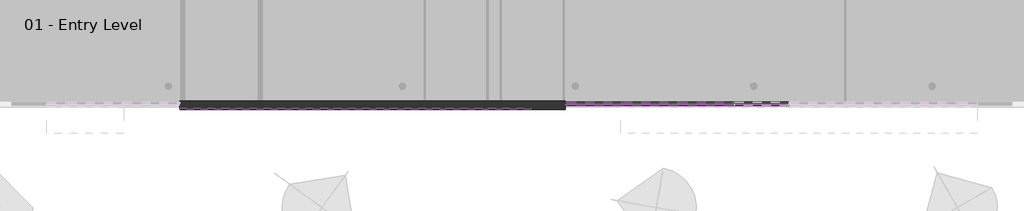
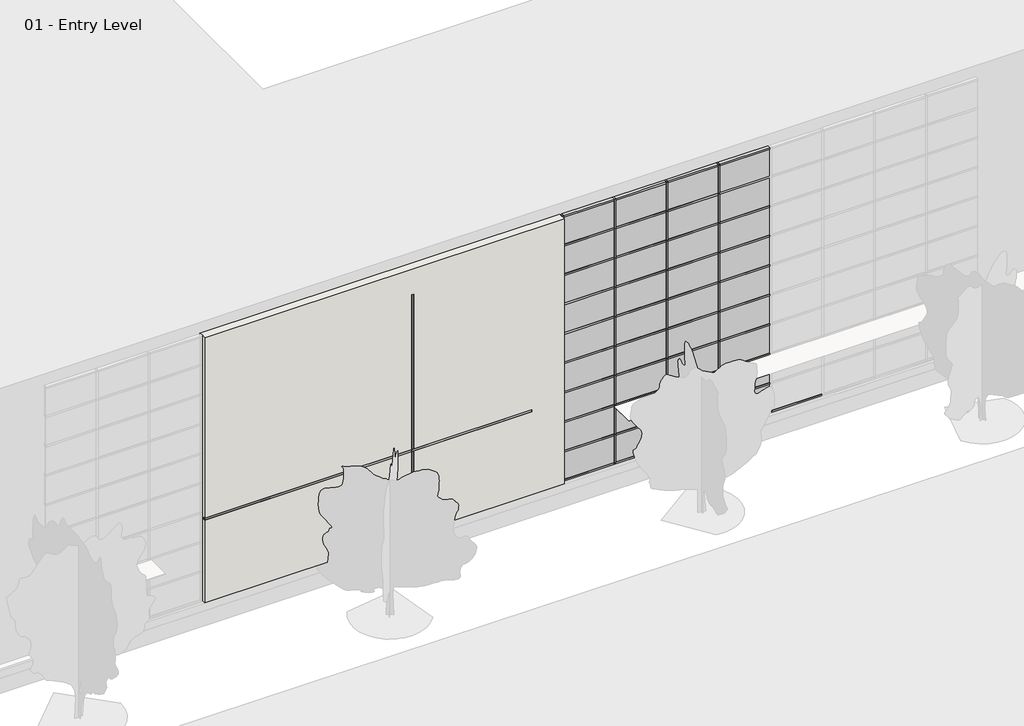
# One storey, part 2 of 35: 85 members, 36 plates, 2 proxies, 1 wall.
"""IFC4 building model written with IfcOpenShell, lengths in millimetres."""

from ifc_helpers import new_model, si_unit, frame, origin, origin_with_axes, place, context, project, spatial, polyline, outline, extrude, faceted_brep, transform, mapped, element, save
from components import member_2b49869a, member_75074519, member_391b434c, member_9e90ae50, system_panel_glazed_1b9d6098, system_panel_glazed_70da479d, system_panel_solid_b376696c, system_panel_solid_77e8b053

model = new_model("IFC4")

# Units and contexts
model_context = context("Model", 3, world=origin())
ifc_project = project(units=[si_unit("LENGTHUNIT", "METRE", prefix="MILLI")], contexts=[model_context])

# Site, building, storey
site = spatial("IfcSite", under=ifc_project)
building = spatial("IfcBuilding", under=site)
storey = spatial("IfcBuildingStorey", under=building, Name="01 - Entry Level", Elevation=0.0)

# Proxies
placement = place(None, origin())
element("IfcBuildingElementProxy", 1, Name="Reveal", ObjectType="Reveal", at=placement, inside=storey, context=model_context, shape_type="SweptSolid", body=[
    extrude(outline(polyline([(16536.3207476, -203.275), (16536.3207476, -254.075), (16460.1207476, -254.075), (16460.1207476, -203.275), (16536.3207476, -203.275)])), origin_with_axes(), (0.0, 0.0, 1.0), 9906.0),
])
element("IfcBuildingElementProxy", 2, Name="Reveal", ObjectType="Reveal", at=placement, inside=storey, context=model_context, shape_type="SweptSolid", body=[
    extrude(outline(polyline([(8357.5207476, -254.075), (8357.5207476, -203.275), (21159.1207476, -203.275), (21159.1207476, -254.075), (8357.5207476, -254.075)])), frame((0.0, 0.0, 3429.0), z_axis=(0.0, 0.0, 1.0), x_axis=(1.0, 0.0, 0.0)), (0.0, 0.0, 1.0), 76.2),
])

# Members
member_shape = member_2b49869a(model_context)
element("IfcMember", 3, ObjectType="Rectangular Mullion : 2.5\" x 5\" rectangular", at=placement, inside=storey, context=model_context, shape_type="MappedRepresentation", body=[
    mapped(member_shape, transform((22467.2207476, -47.7, 9753.6), x_axis=(1.0, 0.0, 0.0), y_axis=(0.0, -1.0, 0.0), z_axis=(0.0, 0.0, -1.0))),
])
element("IfcMember", 4, ObjectType="Rectangular Mullion : 2.5\" x 5\" rectangular", at=placement, inside=storey, context=model_context, shape_type="MappedRepresentation", body=[
    mapped(member_shape, transform((24499.2207476, -47.7, 9753.6), x_axis=(1.0, 0.0, 0.0), y_axis=(0.0, -1.0, 0.0), z_axis=(0.0, 0.0, -1.0))),
])
element("IfcMember", 5, ObjectType="Rectangular Mullion : 2.5\" x 5\" rectangular", at=placement, inside=storey, context=model_context, shape_type="MappedRepresentation", body=[
    mapped(member_shape, transform((26531.2207476, -47.7, 9753.6), x_axis=(1.0, 0.0, 0.0), y_axis=(0.0, -1.0, 0.0), z_axis=(0.0, 0.0, -1.0))),
])
element("IfcMember", 6, ObjectType="Rectangular Mullion : 2.5\" x 5\" rectangular", at=placement, inside=storey, context=model_context, shape_type="MappedRepresentation", body=[
    mapped(member_shape, transform((28563.2207476, -47.7, 9753.6), x_axis=(1.0, 0.0, 0.0), y_axis=(0.0, -1.0, 0.0), z_axis=(0.0, 0.0, -1.0))),
])
member_2_shape = member_75074519(model_context)
element("IfcMember", 7, ObjectType="Rectangular Mullion : 2.5\" x 5\" rectangular", at=placement, inside=storey, context=model_context, shape_type="MappedRepresentation", body=[
    mapped(member_2_shape, transform((22429.1207476, -47.7, 10972.8), x_axis=(-1.0, 0.0, 0.0), y_axis=(0.0, -1.0, 0.0), z_axis=(0.0, 0.0, 1.0))),
])
member_3_shape = member_391b434c(model_context)
element("IfcMember", 8, ObjectType="Rectangular Mullion : 2.5\" x 5\" rectangular", at=placement, inside=storey, context=model_context, shape_type="MappedRepresentation", body=[
    mapped(member_3_shape, transform((24467.4707476, -47.7, 10972.8), x_axis=(0.0, 0.0, 1.0), y_axis=(0.0, -1.0, 0.0), z_axis=(1.0, 0.0, 0.0))),
])
element("IfcMember", 9, ObjectType="Rectangular Mullion : 2.5\" x 5\" rectangular", at=placement, inside=storey, context=model_context, shape_type="MappedRepresentation", body=[
    mapped(member_3_shape, transform((26499.4707476, -47.7, 10972.8), x_axis=(0.0, 0.0, 1.0), y_axis=(0.0, -1.0, 0.0), z_axis=(1.0, 0.0, 0.0))),
])
element("IfcMember", 10, ObjectType="Rectangular Mullion : 2.5\" x 5\" rectangular", at=placement, inside=storey, context=model_context, shape_type="MappedRepresentation", body=[
    mapped(member_3_shape, transform((28531.4707476, -47.7, 10972.8), x_axis=(0.0, 0.0, 1.0), y_axis=(0.0, -1.0, 0.0), z_axis=(1.0, 0.0, 0.0))),
])
element("IfcMember", 11, ObjectType="Rectangular Mullion : 2.5\" x 5\" rectangular", at=placement, inside=storey, context=model_context, shape_type="MappedRepresentation", body=[
    mapped(member_3_shape, transform((30563.4707476, -47.7, 10972.8), x_axis=(0.0, 0.0, 1.0), y_axis=(0.0, -1.0, 0.0), z_axis=(1.0, 0.0, 0.0))),
])
element("IfcMember", 12, ObjectType="Rectangular Mullion : 2.5\" x 5\" rectangular", at=placement, inside=storey, context=model_context, shape_type="MappedRepresentation", body=[
    mapped(member_3_shape, transform((22498.9707476, -47.7, 0.0), x_axis=(0.0, 0.0, -1.0), y_axis=(0.0, -1.0, 0.0), z_axis=(-1.0, 0.0, 0.0))),
])
element("IfcMember", 13, ObjectType="Rectangular Mullion : 2.5\" x 5\" rectangular", at=placement, inside=storey, context=model_context, shape_type="MappedRepresentation", body=[
    mapped(member_3_shape, transform((24530.9707476, -47.7, 0.0), x_axis=(0.0, 0.0, -1.0), y_axis=(0.0, -1.0, 0.0), z_axis=(-1.0, 0.0, 0.0))),
])
element("IfcMember", 14, ObjectType="Rectangular Mullion : 2.5\" x 5\" rectangular", at=placement, inside=storey, context=model_context, shape_type="MappedRepresentation", body=[
    mapped(member_3_shape, transform((26562.9707476, -47.7, 0.0), x_axis=(0.0, 0.0, -1.0), y_axis=(0.0, -1.0, 0.0), z_axis=(-1.0, 0.0, 0.0))),
])
element("IfcMember", 15, ObjectType="Rectangular Mullion : 2.5\" x 5\" rectangular", at=placement, inside=storey, context=model_context, shape_type="MappedRepresentation", body=[
    mapped(member_3_shape, transform((28594.9707476, -47.7, 0.0), x_axis=(0.0, 0.0, -1.0), y_axis=(0.0, -1.0, 0.0), z_axis=(-1.0, 0.0, 0.0))),
])
element("IfcMember", 16, ObjectType="Rectangular Mullion : 2.5\" x 5\" rectangular", at=placement, inside=storey, context=model_context, shape_type="MappedRepresentation", body=[
    mapped(member_3_shape, transform((30626.9707476, -47.7, 0.0), x_axis=(0.0, 0.0, -1.0), y_axis=(0.0, -1.0, 0.0), z_axis=(-1.0, 0.0, 0.0))),
])
member_4_shape = member_9e90ae50(model_context)
element("IfcMember", 17, ObjectType="Rectangular Mullion : 2.5\" x 5\" rectangular", at=placement, inside=storey, context=model_context, shape_type="MappedRepresentation", body=[
    mapped(member_4_shape, transform((24467.4707476, -47.7, 1219.2), x_axis=(0.0, 0.0, 1.0), y_axis=(0.0, -1.0, 0.0), z_axis=(1.0, 0.0, 0.0))),
])
element("IfcMember", 18, ObjectType="Rectangular Mullion : 2.5\" x 5\" rectangular", at=placement, inside=storey, context=model_context, shape_type="MappedRepresentation", body=[
    mapped(member_4_shape, transform((26499.4707476, -47.7, 1219.2), x_axis=(0.0, 0.0, 1.0), y_axis=(0.0, -1.0, 0.0), z_axis=(1.0, 0.0, 0.0))),
])
element("IfcMember", 19, ObjectType="Rectangular Mullion : 2.5\" x 5\" rectangular", at=placement, inside=storey, context=model_context, shape_type="MappedRepresentation", body=[
    mapped(member_4_shape, transform((28531.4707476, -47.7, 1219.2), x_axis=(0.0, 0.0, 1.0), y_axis=(0.0, -1.0, 0.0), z_axis=(1.0, 0.0, 0.0))),
])
element("IfcMember", 20, ObjectType="Rectangular Mullion : 2.5\" x 5\" rectangular", at=placement, inside=storey, context=model_context, shape_type="MappedRepresentation", body=[
    mapped(member_4_shape, transform((30563.4707476, -47.7, 1219.2), x_axis=(0.0, 0.0, 1.0), y_axis=(0.0, -1.0, 0.0), z_axis=(1.0, 0.0, 0.0))),
])
element("IfcMember", 21, ObjectType="Rectangular Mullion : 2.5\" x 5\" rectangular", at=placement, inside=storey, context=model_context, shape_type="MappedRepresentation", body=[
    mapped(member_4_shape, transform((24467.4707476, -47.7, 2438.4), x_axis=(0.0, 0.0, 1.0), y_axis=(0.0, -1.0, 0.0), z_axis=(1.0, 0.0, 0.0))),
])
element("IfcMember", 22, ObjectType="Rectangular Mullion : 2.5\" x 5\" rectangular", at=placement, inside=storey, context=model_context, shape_type="MappedRepresentation", body=[
    mapped(member_4_shape, transform((26499.4707476, -47.7, 2438.4), x_axis=(0.0, 0.0, 1.0), y_axis=(0.0, -1.0, 0.0), z_axis=(1.0, 0.0, 0.0))),
])
element("IfcMember", 23, ObjectType="Rectangular Mullion : 2.5\" x 5\" rectangular", at=placement, inside=storey, context=model_context, shape_type="MappedRepresentation", body=[
    mapped(member_4_shape, transform((28531.4707476, -47.7, 2438.4), x_axis=(0.0, 0.0, 1.0), y_axis=(0.0, -1.0, 0.0), z_axis=(1.0, 0.0, 0.0))),
])
element("IfcMember", 24, ObjectType="Rectangular Mullion : 2.5\" x 5\" rectangular", at=placement, inside=storey, context=model_context, shape_type="MappedRepresentation", body=[
    mapped(member_4_shape, transform((30563.4707476, -47.7, 2438.4), x_axis=(0.0, 0.0, 1.0), y_axis=(0.0, -1.0, 0.0), z_axis=(1.0, 0.0, 0.0))),
])
element("IfcMember", 25, ObjectType="Rectangular Mullion : 2.5\" x 5\" rectangular", at=placement, inside=storey, context=model_context, shape_type="MappedRepresentation", body=[
    mapped(member_4_shape, transform((24467.4707476, -47.7, 3657.6), x_axis=(0.0, 0.0, 1.0), y_axis=(0.0, -1.0, 0.0), z_axis=(1.0, 0.0, 0.0))),
])
element("IfcMember", 26, ObjectType="Rectangular Mullion : 2.5\" x 5\" rectangular", at=placement, inside=storey, context=model_context, shape_type="MappedRepresentation", body=[
    mapped(member_4_shape, transform((26499.4707476, -47.7, 3657.6), x_axis=(0.0, 0.0, 1.0), y_axis=(0.0, -1.0, 0.0), z_axis=(1.0, 0.0, 0.0))),
])
element("IfcMember", 27, ObjectType="Rectangular Mullion : 2.5\" x 5\" rectangular", at=placement, inside=storey, context=model_context, shape_type="MappedRepresentation", body=[
    mapped(member_4_shape, transform((28531.4707476, -47.7, 3657.6), x_axis=(0.0, 0.0, 1.0), y_axis=(0.0, -1.0, 0.0), z_axis=(1.0, 0.0, 0.0))),
])
element("IfcMember", 28, ObjectType="Rectangular Mullion : 2.5\" x 5\" rectangular", at=placement, inside=storey, context=model_context, shape_type="MappedRepresentation", body=[
    mapped(member_4_shape, transform((30563.4707476, -47.7, 3657.6), x_axis=(0.0, 0.0, 1.0), y_axis=(0.0, -1.0, 0.0), z_axis=(1.0, 0.0, 0.0))),
])
element("IfcMember", 29, ObjectType="Rectangular Mullion : 2.5\" x 5\" rectangular", at=placement, inside=storey, context=model_context, shape_type="MappedRepresentation", body=[
    mapped(member_4_shape, transform((24467.4707476, -47.7, 4876.8), x_axis=(0.0, 0.0, 1.0), y_axis=(0.0, -1.0, 0.0), z_axis=(1.0, 0.0, 0.0))),
])
element("IfcMember", 30, ObjectType="Rectangular Mullion : 2.5\" x 5\" rectangular", at=placement, inside=storey, context=model_context, shape_type="MappedRepresentation", body=[
    mapped(member_4_shape, transform((26499.4707476, -47.7, 4876.8), x_axis=(0.0, 0.0, 1.0), y_axis=(0.0, -1.0, 0.0), z_axis=(1.0, 0.0, 0.0))),
])
element("IfcMember", 31, ObjectType="Rectangular Mullion : 2.5\" x 5\" rectangular", at=placement, inside=storey, context=model_context, shape_type="MappedRepresentation", body=[
    mapped(member_4_shape, transform((28531.4707476, -47.7, 4876.8), x_axis=(0.0, 0.0, 1.0), y_axis=(0.0, -1.0, 0.0), z_axis=(1.0, 0.0, 0.0))),
])
element("IfcMember", 32, ObjectType="Rectangular Mullion : 2.5\" x 5\" rectangular", at=placement, inside=storey, context=model_context, shape_type="MappedRepresentation", body=[
    mapped(member_4_shape, transform((30563.4707476, -47.7, 4876.8), x_axis=(0.0, 0.0, 1.0), y_axis=(0.0, -1.0, 0.0), z_axis=(1.0, 0.0, 0.0))),
])
element("IfcMember", 33, ObjectType="Rectangular Mullion : 2.5\" x 5\" rectangular", at=placement, inside=storey, context=model_context, shape_type="MappedRepresentation", body=[
    mapped(member_4_shape, transform((24467.4707476, -47.7, 6096.0), x_axis=(0.0, 0.0, 1.0), y_axis=(0.0, -1.0, 0.0), z_axis=(1.0, 0.0, 0.0))),
])
element("IfcMember", 34, ObjectType="Rectangular Mullion : 2.5\" x 5\" rectangular", at=placement, inside=storey, context=model_context, shape_type="MappedRepresentation", body=[
    mapped(member_4_shape, transform((26499.4707476, -47.7, 6096.0), x_axis=(0.0, 0.0, 1.0), y_axis=(0.0, -1.0, 0.0), z_axis=(1.0, 0.0, 0.0))),
])
element("IfcMember", 35, ObjectType="Rectangular Mullion : 2.5\" x 5\" rectangular", at=placement, inside=storey, context=model_context, shape_type="MappedRepresentation", body=[
    mapped(member_4_shape, transform((28531.4707476, -47.7, 6096.0), x_axis=(0.0, 0.0, 1.0), y_axis=(0.0, -1.0, 0.0), z_axis=(1.0, 0.0, 0.0))),
])
element("IfcMember", 36, ObjectType="Rectangular Mullion : 2.5\" x 5\" rectangular", at=placement, inside=storey, context=model_context, shape_type="MappedRepresentation", body=[
    mapped(member_4_shape, transform((30563.4707476, -47.7, 6096.0), x_axis=(0.0, 0.0, 1.0), y_axis=(0.0, -1.0, 0.0), z_axis=(1.0, 0.0, 0.0))),
])
element("IfcMember", 37, ObjectType="Rectangular Mullion : 2.5\" x 5\" rectangular", at=placement, inside=storey, context=model_context, shape_type="MappedRepresentation", body=[
    mapped(member_4_shape, transform((24467.4707476, -47.7, 7315.2), x_axis=(0.0, 0.0, 1.0), y_axis=(0.0, -1.0, 0.0), z_axis=(1.0, 0.0, 0.0))),
])
element("IfcMember", 38, ObjectType="Rectangular Mullion : 2.5\" x 5\" rectangular", at=placement, inside=storey, context=model_context, shape_type="MappedRepresentation", body=[
    mapped(member_4_shape, transform((26499.4707476, -47.7, 7315.2), x_axis=(0.0, 0.0, 1.0), y_axis=(0.0, -1.0, 0.0), z_axis=(1.0, 0.0, 0.0))),
])
element("IfcMember", 39, ObjectType="Rectangular Mullion : 2.5\" x 5\" rectangular", at=placement, inside=storey, context=model_context, shape_type="MappedRepresentation", body=[
    mapped(member_4_shape, transform((28531.4707476, -47.7, 7315.2), x_axis=(0.0, 0.0, 1.0), y_axis=(0.0, -1.0, 0.0), z_axis=(1.0, 0.0, 0.0))),
])
element("IfcMember", 40, ObjectType="Rectangular Mullion : 2.5\" x 5\" rectangular", at=placement, inside=storey, context=model_context, shape_type="MappedRepresentation", body=[
    mapped(member_4_shape, transform((30563.4707476, -47.7, 7315.2), x_axis=(0.0, 0.0, 1.0), y_axis=(0.0, -1.0, 0.0), z_axis=(1.0, 0.0, 0.0))),
])
element("IfcMember", 41, ObjectType="Rectangular Mullion : 2.5\" x 5\" rectangular", at=placement, inside=storey, context=model_context, shape_type="MappedRepresentation", body=[
    mapped(member_4_shape, transform((24467.4707476, -47.7, 8534.4), x_axis=(0.0, 0.0, 1.0), y_axis=(0.0, -1.0, 0.0), z_axis=(1.0, 0.0, 0.0))),
])
element("IfcMember", 42, ObjectType="Rectangular Mullion : 2.5\" x 5\" rectangular", at=placement, inside=storey, context=model_context, shape_type="MappedRepresentation", body=[
    mapped(member_4_shape, transform((26499.4707476, -47.7, 8534.4), x_axis=(0.0, 0.0, 1.0), y_axis=(0.0, -1.0, 0.0), z_axis=(1.0, 0.0, 0.0))),
])
element("IfcMember", 43, ObjectType="Rectangular Mullion : 2.5\" x 5\" rectangular", at=placement, inside=storey, context=model_context, shape_type="MappedRepresentation", body=[
    mapped(member_4_shape, transform((28531.4707476, -47.7, 8534.4), x_axis=(0.0, 0.0, 1.0), y_axis=(0.0, -1.0, 0.0), z_axis=(1.0, 0.0, 0.0))),
])
element("IfcMember", 44, ObjectType="Rectangular Mullion : 2.5\" x 5\" rectangular", at=placement, inside=storey, context=model_context, shape_type="MappedRepresentation", body=[
    mapped(member_4_shape, transform((30563.4707476, -47.7, 8534.4), x_axis=(0.0, 0.0, 1.0), y_axis=(0.0, -1.0, 0.0), z_axis=(1.0, 0.0, 0.0))),
])
element("IfcMember", 45, ObjectType="Rectangular Mullion : 2.5\" x 5\" rectangular", at=placement, inside=storey, context=model_context, shape_type="MappedRepresentation", body=[
    mapped(member_4_shape, transform((24467.4707476, -47.7, 9753.6), x_axis=(0.0, 0.0, 1.0), y_axis=(0.0, -1.0, 0.0), z_axis=(1.0, 0.0, 0.0))),
])
element("IfcMember", 46, ObjectType="Rectangular Mullion : 2.5\" x 5\" rectangular", at=placement, inside=storey, context=model_context, shape_type="MappedRepresentation", body=[
    mapped(member_4_shape, transform((26499.4707476, -47.7, 9753.6), x_axis=(0.0, 0.0, 1.0), y_axis=(0.0, -1.0, 0.0), z_axis=(1.0, 0.0, 0.0))),
])
element("IfcMember", 47, ObjectType="Rectangular Mullion : 2.5\" x 5\" rectangular", at=placement, inside=storey, context=model_context, shape_type="MappedRepresentation", body=[
    mapped(member_4_shape, transform((28531.4707476, -47.7, 9753.6), x_axis=(0.0, 0.0, 1.0), y_axis=(0.0, -1.0, 0.0), z_axis=(1.0, 0.0, 0.0))),
])
element("IfcMember", 48, ObjectType="Rectangular Mullion : 2.5\" x 5\" rectangular", at=placement, inside=storey, context=model_context, shape_type="MappedRepresentation", body=[
    mapped(member_shape, transform((22467.2207476, -47.7, 0.0), x_axis=(1.0, 0.0, 0.0), y_axis=(0.0, -1.0, 0.0), z_axis=(0.0, 0.0, -1.0))),
])
element("IfcMember", 49, ObjectType="Rectangular Mullion : 2.5\" x 5\" rectangular", at=placement, inside=storey, context=model_context, shape_type="MappedRepresentation", body=[
    mapped(member_shape, transform((24499.2207476, -47.7, 0.0), x_axis=(1.0, 0.0, 0.0), y_axis=(0.0, -1.0, 0.0), z_axis=(0.0, 0.0, -1.0))),
])
element("IfcMember", 50, ObjectType="Rectangular Mullion : 2.5\" x 5\" rectangular", at=placement, inside=storey, context=model_context, shape_type="MappedRepresentation", body=[
    mapped(member_shape, transform((26531.2207476, -47.7, 0.0), x_axis=(1.0, 0.0, 0.0), y_axis=(0.0, -1.0, 0.0), z_axis=(0.0, 0.0, -1.0))),
])
element("IfcMember", 51, ObjectType="Rectangular Mullion : 2.5\" x 5\" rectangular", at=placement, inside=storey, context=model_context, shape_type="MappedRepresentation", body=[
    mapped(member_shape, transform((28563.2207476, -47.7, 0.0), x_axis=(1.0, 0.0, 0.0), y_axis=(0.0, -1.0, 0.0), z_axis=(0.0, 0.0, -1.0))),
])
element("IfcMember", 52, ObjectType="Rectangular Mullion : 2.5\" x 5\" rectangular", at=placement, inside=storey, context=model_context, shape_type="MappedRepresentation", body=[
    mapped(member_shape, transform((22467.2207476, -47.7, 1219.2), x_axis=(1.0, 0.0, 0.0), y_axis=(0.0, -1.0, 0.0), z_axis=(0.0, 0.0, -1.0))),
])
element("IfcMember", 53, ObjectType="Rectangular Mullion : 2.5\" x 5\" rectangular", at=placement, inside=storey, context=model_context, shape_type="MappedRepresentation", body=[
    mapped(member_shape, transform((24499.2207476, -47.7, 1219.2), x_axis=(1.0, 0.0, 0.0), y_axis=(0.0, -1.0, 0.0), z_axis=(0.0, 0.0, -1.0))),
])
element("IfcMember", 54, ObjectType="Rectangular Mullion : 2.5\" x 5\" rectangular", at=placement, inside=storey, context=model_context, shape_type="MappedRepresentation", body=[
    mapped(member_shape, transform((26531.2207476, -47.7, 1219.2), x_axis=(1.0, 0.0, 0.0), y_axis=(0.0, -1.0, 0.0), z_axis=(0.0, 0.0, -1.0))),
])
element("IfcMember", 55, ObjectType="Rectangular Mullion : 2.5\" x 5\" rectangular", at=placement, inside=storey, context=model_context, shape_type="MappedRepresentation", body=[
    mapped(member_shape, transform((28563.2207476, -47.7, 1219.2), x_axis=(1.0, 0.0, 0.0), y_axis=(0.0, -1.0, 0.0), z_axis=(0.0, 0.0, -1.0))),
])
element("IfcMember", 56, ObjectType="Rectangular Mullion : 2.5\" x 5\" rectangular", at=placement, inside=storey, context=model_context, shape_type="MappedRepresentation", body=[
    mapped(member_shape, transform((22467.2207476, -47.7, 2438.4), x_axis=(1.0, 0.0, 0.0), y_axis=(0.0, -1.0, 0.0), z_axis=(0.0, 0.0, -1.0))),
])
element("IfcMember", 57, ObjectType="Rectangular Mullion : 2.5\" x 5\" rectangular", at=placement, inside=storey, context=model_context, shape_type="MappedRepresentation", body=[
    mapped(member_shape, transform((24499.2207476, -47.7, 2438.4), x_axis=(1.0, 0.0, 0.0), y_axis=(0.0, -1.0, 0.0), z_axis=(0.0, 0.0, -1.0))),
])
element("IfcMember", 58, ObjectType="Rectangular Mullion : 2.5\" x 5\" rectangular", at=placement, inside=storey, context=model_context, shape_type="MappedRepresentation", body=[
    mapped(member_shape, transform((26531.2207476, -47.7, 2438.4), x_axis=(1.0, 0.0, 0.0), y_axis=(0.0, -1.0, 0.0), z_axis=(0.0, 0.0, -1.0))),
])
element("IfcMember", 59, ObjectType="Rectangular Mullion : 2.5\" x 5\" rectangular", at=placement, inside=storey, context=model_context, shape_type="MappedRepresentation", body=[
    mapped(member_shape, transform((28563.2207476, -47.7, 2438.4), x_axis=(1.0, 0.0, 0.0), y_axis=(0.0, -1.0, 0.0), z_axis=(0.0, 0.0, -1.0))),
])
element("IfcMember", 60, ObjectType="Rectangular Mullion : 2.5\" x 5\" rectangular", at=placement, inside=storey, context=model_context, shape_type="MappedRepresentation", body=[
    mapped(member_shape, transform((22467.2207476, -47.7, 3657.6), x_axis=(1.0, 0.0, 0.0), y_axis=(0.0, -1.0, 0.0), z_axis=(0.0, 0.0, -1.0))),
])
element("IfcMember", 61, ObjectType="Rectangular Mullion : 2.5\" x 5\" rectangular", at=placement, inside=storey, context=model_context, shape_type="MappedRepresentation", body=[
    mapped(member_shape, transform((24499.2207476, -47.7, 3657.6), x_axis=(1.0, 0.0, 0.0), y_axis=(0.0, -1.0, 0.0), z_axis=(0.0, 0.0, -1.0))),
])
element("IfcMember", 62, ObjectType="Rectangular Mullion : 2.5\" x 5\" rectangular", at=placement, inside=storey, context=model_context, shape_type="MappedRepresentation", body=[
    mapped(member_shape, transform((26531.2207476, -47.7, 3657.6), x_axis=(1.0, 0.0, 0.0), y_axis=(0.0, -1.0, 0.0), z_axis=(0.0, 0.0, -1.0))),
])
element("IfcMember", 63, ObjectType="Rectangular Mullion : 2.5\" x 5\" rectangular", at=placement, inside=storey, context=model_context, shape_type="MappedRepresentation", body=[
    mapped(member_shape, transform((28563.2207476, -47.7, 3657.6), x_axis=(1.0, 0.0, 0.0), y_axis=(0.0, -1.0, 0.0), z_axis=(0.0, 0.0, -1.0))),
])
element("IfcMember", 64, ObjectType="Rectangular Mullion : 2.5\" x 5\" rectangular", at=placement, inside=storey, context=model_context, shape_type="MappedRepresentation", body=[
    mapped(member_shape, transform((22467.2207476, -47.7, 4876.8), x_axis=(1.0, 0.0, 0.0), y_axis=(0.0, -1.0, 0.0), z_axis=(0.0, 0.0, -1.0))),
])
element("IfcMember", 65, ObjectType="Rectangular Mullion : 2.5\" x 5\" rectangular", at=placement, inside=storey, context=model_context, shape_type="MappedRepresentation", body=[
    mapped(member_shape, transform((24499.2207476, -47.7, 4876.8), x_axis=(1.0, 0.0, 0.0), y_axis=(0.0, -1.0, 0.0), z_axis=(0.0, 0.0, -1.0))),
])
element("IfcMember", 66, ObjectType="Rectangular Mullion : 2.5\" x 5\" rectangular", at=placement, inside=storey, context=model_context, shape_type="MappedRepresentation", body=[
    mapped(member_shape, transform((26531.2207476, -47.7, 4876.8), x_axis=(1.0, 0.0, 0.0), y_axis=(0.0, -1.0, 0.0), z_axis=(0.0, 0.0, -1.0))),
])
element("IfcMember", 67, ObjectType="Rectangular Mullion : 2.5\" x 5\" rectangular", at=placement, inside=storey, context=model_context, shape_type="MappedRepresentation", body=[
    mapped(member_shape, transform((28563.2207476, -47.7, 4876.8), x_axis=(1.0, 0.0, 0.0), y_axis=(0.0, -1.0, 0.0), z_axis=(0.0, 0.0, -1.0))),
])
element("IfcMember", 68, ObjectType="Rectangular Mullion : 2.5\" x 5\" rectangular", at=placement, inside=storey, context=model_context, shape_type="MappedRepresentation", body=[
    mapped(member_shape, transform((22467.2207476, -47.7, 6096.0), x_axis=(1.0, 0.0, 0.0), y_axis=(0.0, -1.0, 0.0), z_axis=(0.0, 0.0, -1.0))),
])
element("IfcMember", 69, ObjectType="Rectangular Mullion : 2.5\" x 5\" rectangular", at=placement, inside=storey, context=model_context, shape_type="MappedRepresentation", body=[
    mapped(member_shape, transform((24499.2207476, -47.7, 6096.0), x_axis=(1.0, 0.0, 0.0), y_axis=(0.0, -1.0, 0.0), z_axis=(0.0, 0.0, -1.0))),
])
element("IfcMember", 70, ObjectType="Rectangular Mullion : 2.5\" x 5\" rectangular", at=placement, inside=storey, context=model_context, shape_type="MappedRepresentation", body=[
    mapped(member_shape, transform((26531.2207476, -47.7, 6096.0), x_axis=(1.0, 0.0, 0.0), y_axis=(0.0, -1.0, 0.0), z_axis=(0.0, 0.0, -1.0))),
])
element("IfcMember", 71, ObjectType="Rectangular Mullion : 2.5\" x 5\" rectangular", at=placement, inside=storey, context=model_context, shape_type="MappedRepresentation", body=[
    mapped(member_shape, transform((28563.2207476, -47.7, 6096.0), x_axis=(1.0, 0.0, 0.0), y_axis=(0.0, -1.0, 0.0), z_axis=(0.0, 0.0, -1.0))),
])
element("IfcMember", 72, ObjectType="Rectangular Mullion : 2.5\" x 5\" rectangular", at=placement, inside=storey, context=model_context, shape_type="MappedRepresentation", body=[
    mapped(member_shape, transform((22467.2207476, -47.7, 7315.2), x_axis=(1.0, 0.0, 0.0), y_axis=(0.0, -1.0, 0.0), z_axis=(0.0, 0.0, -1.0))),
])
element("IfcMember", 73, ObjectType="Rectangular Mullion : 2.5\" x 5\" rectangular", at=placement, inside=storey, context=model_context, shape_type="MappedRepresentation", body=[
    mapped(member_shape, transform((24499.2207476, -47.7, 7315.2), x_axis=(1.0, 0.0, 0.0), y_axis=(0.0, -1.0, 0.0), z_axis=(0.0, 0.0, -1.0))),
])
element("IfcMember", 74, ObjectType="Rectangular Mullion : 2.5\" x 5\" rectangular", at=placement, inside=storey, context=model_context, shape_type="MappedRepresentation", body=[
    mapped(member_shape, transform((26531.2207476, -47.7, 7315.2), x_axis=(1.0, 0.0, 0.0), y_axis=(0.0, -1.0, 0.0), z_axis=(0.0, 0.0, -1.0))),
])
element("IfcMember", 75, ObjectType="Rectangular Mullion : 2.5\" x 5\" rectangular", at=placement, inside=storey, context=model_context, shape_type="MappedRepresentation", body=[
    mapped(member_shape, transform((28563.2207476, -47.7, 7315.2), x_axis=(1.0, 0.0, 0.0), y_axis=(0.0, -1.0, 0.0), z_axis=(0.0, 0.0, -1.0))),
])
element("IfcMember", 76, ObjectType="Rectangular Mullion : 2.5\" x 5\" rectangular", at=placement, inside=storey, context=model_context, shape_type="MappedRepresentation", body=[
    mapped(member_shape, transform((22467.2207476, -47.7, 8534.4), x_axis=(1.0, 0.0, 0.0), y_axis=(0.0, -1.0, 0.0), z_axis=(0.0, 0.0, -1.0))),
])
element("IfcMember", 77, ObjectType="Rectangular Mullion : 2.5\" x 5\" rectangular", at=placement, inside=storey, context=model_context, shape_type="MappedRepresentation", body=[
    mapped(member_shape, transform((24499.2207476, -47.7, 8534.4), x_axis=(1.0, 0.0, 0.0), y_axis=(0.0, -1.0, 0.0), z_axis=(0.0, 0.0, -1.0))),
])
element("IfcMember", 78, ObjectType="Rectangular Mullion : 2.5\" x 5\" rectangular", at=placement, inside=storey, context=model_context, shape_type="MappedRepresentation", body=[
    mapped(member_shape, transform((26531.2207476, -47.7, 8534.4), x_axis=(1.0, 0.0, 0.0), y_axis=(0.0, -1.0, 0.0), z_axis=(0.0, 0.0, -1.0))),
])
element("IfcMember", 79, ObjectType="Rectangular Mullion : 2.5\" x 5\" rectangular", at=placement, inside=storey, context=model_context, shape_type="MappedRepresentation", body=[
    mapped(member_shape, transform((28563.2207476, -47.7, 8534.4), x_axis=(1.0, 0.0, 0.0), y_axis=(0.0, -1.0, 0.0), z_axis=(0.0, 0.0, -1.0))),
])
element("IfcMember", 80, ObjectType="Rectangular Mullion : 2.5\" x 5\" rectangular", at=placement, inside=storey, context=model_context, shape_type="MappedRepresentation", body=[
    mapped(member_2_shape, transform((22429.1207476, -47.7, 1219.2), x_axis=(-1.0, 0.0, 0.0), y_axis=(0.0, -1.0, 0.0), z_axis=(0.0, 0.0, 1.0))),
])
element("IfcMember", 81, ObjectType="Rectangular Mullion : 2.5\" x 5\" rectangular", at=placement, inside=storey, context=model_context, shape_type="MappedRepresentation", body=[
    mapped(member_2_shape, transform((22429.1207476, -47.7, 2438.4), x_axis=(-1.0, 0.0, 0.0), y_axis=(0.0, -1.0, 0.0), z_axis=(0.0, 0.0, 1.0))),
])
element("IfcMember", 82, ObjectType="Rectangular Mullion : 2.5\" x 5\" rectangular", at=placement, inside=storey, context=model_context, shape_type="MappedRepresentation", body=[
    mapped(member_2_shape, transform((22429.1207476, -47.7, 3657.6), x_axis=(-1.0, 0.0, 0.0), y_axis=(0.0, -1.0, 0.0), z_axis=(0.0, 0.0, 1.0))),
])
element("IfcMember", 83, ObjectType="Rectangular Mullion : 2.5\" x 5\" rectangular", at=placement, inside=storey, context=model_context, shape_type="MappedRepresentation", body=[
    mapped(member_2_shape, transform((22429.1207476, -47.7, 4876.8), x_axis=(-1.0, 0.0, 0.0), y_axis=(0.0, -1.0, 0.0), z_axis=(0.0, 0.0, 1.0))),
])
element("IfcMember", 84, ObjectType="Rectangular Mullion : 2.5\" x 5\" rectangular", at=placement, inside=storey, context=model_context, shape_type="MappedRepresentation", body=[
    mapped(member_2_shape, transform((22429.1207476, -47.7, 6096.0), x_axis=(-1.0, 0.0, 0.0), y_axis=(0.0, -1.0, 0.0), z_axis=(0.0, 0.0, 1.0))),
])
element("IfcMember", 85, ObjectType="Rectangular Mullion : 2.5\" x 5\" rectangular", at=placement, inside=storey, context=model_context, shape_type="MappedRepresentation", body=[
    mapped(member_2_shape, transform((22429.1207476, -47.7, 7315.2), x_axis=(-1.0, 0.0, 0.0), y_axis=(0.0, -1.0, 0.0), z_axis=(0.0, 0.0, 1.0))),
])
element("IfcMember", 86, ObjectType="Rectangular Mullion : 2.5\" x 5\" rectangular", at=placement, inside=storey, context=model_context, shape_type="MappedRepresentation", body=[
    mapped(member_2_shape, transform((22429.1207476, -47.7, 8534.4), x_axis=(-1.0, 0.0, 0.0), y_axis=(0.0, -1.0, 0.0), z_axis=(0.0, 0.0, 1.0))),
])
element("IfcMember", 87, ObjectType="Rectangular Mullion : 2.5\" x 5\" rectangular", at=placement, inside=storey, context=model_context, shape_type="MappedRepresentation", body=[
    mapped(member_2_shape, transform((22429.1207476, -47.7, 9753.6), x_axis=(-1.0, 0.0, 0.0), y_axis=(0.0, -1.0, 0.0), z_axis=(0.0, 0.0, 1.0))),
])

# Plates
system_panel_glazed_shape = system_panel_glazed_1b9d6098(model_context)
element("IfcPlate", 88, ObjectType="System Panel : Glazed", at=placement, inside=storey, context=model_context, shape_type="MappedRepresentation", body=[
    mapped(system_panel_glazed_shape, transform((23483.2207476, -47.7, 63.5), x_axis=(1.0, 0.0, 0.0), y_axis=(0.0, 1.0, 0.0), z_axis=(0.0, 0.0, 1.0))),
])
element("IfcPlate", 89, ObjectType="System Panel : Glazed", at=placement, inside=storey, context=model_context, shape_type="MappedRepresentation", body=[
    mapped(system_panel_glazed_shape, transform((25515.2207476, -47.7, 63.5), x_axis=(1.0, 0.0, 0.0), y_axis=(0.0, 1.0, 0.0), z_axis=(0.0, 0.0, 1.0))),
])
element("IfcPlate", 90, ObjectType="System Panel : Glazed", at=placement, inside=storey, context=model_context, shape_type="MappedRepresentation", body=[
    mapped(system_panel_glazed_shape, transform((27547.2207476, -47.7, 63.5), x_axis=(1.0, 0.0, 0.0), y_axis=(0.0, 1.0, 0.0), z_axis=(0.0, 0.0, 1.0))),
])
element("IfcPlate", 91, ObjectType="System Panel : Glazed", at=placement, inside=storey, context=model_context, shape_type="MappedRepresentation", body=[
    mapped(system_panel_glazed_shape, transform((29579.2207476, -47.7, 63.5), x_axis=(1.0, 0.0, 0.0), y_axis=(0.0, 1.0, 0.0), z_axis=(0.0, 0.0, 1.0))),
])
system_panel_glazed_2_shape = system_panel_glazed_70da479d(model_context)
element("IfcPlate", 92, ObjectType="System Panel : Glazed", at=placement, inside=storey, context=model_context, shape_type="MappedRepresentation", body=[
    mapped(system_panel_glazed_2_shape, transform((23483.2207476, -47.7, 1250.95), x_axis=(1.0, 0.0, 0.0), y_axis=(0.0, 1.0, 0.0), z_axis=(0.0, 0.0, 1.0))),
])
element("IfcPlate", 93, ObjectType="System Panel : Glazed", at=placement, inside=storey, context=model_context, shape_type="MappedRepresentation", body=[
    mapped(system_panel_glazed_2_shape, transform((25515.2207476, -47.7, 1250.95), x_axis=(1.0, 0.0, 0.0), y_axis=(0.0, 1.0, 0.0), z_axis=(0.0, 0.0, 1.0))),
])
element("IfcPlate", 94, ObjectType="System Panel : Glazed", at=placement, inside=storey, context=model_context, shape_type="MappedRepresentation", body=[
    mapped(system_panel_glazed_2_shape, transform((27547.2207476, -47.7, 1250.95), x_axis=(1.0, 0.0, 0.0), y_axis=(0.0, 1.0, 0.0), z_axis=(0.0, 0.0, 1.0))),
])
element("IfcPlate", 95, ObjectType="System Panel : Glazed", at=placement, inside=storey, context=model_context, shape_type="MappedRepresentation", body=[
    mapped(system_panel_glazed_2_shape, transform((29579.2207476, -47.7, 1250.95), x_axis=(1.0, 0.0, 0.0), y_axis=(0.0, 1.0, 0.0), z_axis=(0.0, 0.0, 1.0))),
])
element("IfcPlate", 96, ObjectType="System Panel : Glazed", at=placement, inside=storey, context=model_context, shape_type="MappedRepresentation", body=[
    mapped(system_panel_glazed_2_shape, transform((23483.2207476, -47.7, 3689.35), x_axis=(1.0, 0.0, 0.0), y_axis=(0.0, 1.0, 0.0), z_axis=(0.0, 0.0, 1.0))),
])
element("IfcPlate", 97, ObjectType="System Panel : Glazed", at=placement, inside=storey, context=model_context, shape_type="MappedRepresentation", body=[
    mapped(system_panel_glazed_2_shape, transform((25515.2207476, -47.7, 3689.35), x_axis=(1.0, 0.0, 0.0), y_axis=(0.0, 1.0, 0.0), z_axis=(0.0, 0.0, 1.0))),
])
element("IfcPlate", 98, ObjectType="System Panel : Glazed", at=placement, inside=storey, context=model_context, shape_type="MappedRepresentation", body=[
    mapped(system_panel_glazed_2_shape, transform((27547.2207476, -47.7, 3689.35), x_axis=(1.0, 0.0, 0.0), y_axis=(0.0, 1.0, 0.0), z_axis=(0.0, 0.0, 1.0))),
])
element("IfcPlate", 99, ObjectType="System Panel : Glazed", at=placement, inside=storey, context=model_context, shape_type="MappedRepresentation", body=[
    mapped(system_panel_glazed_2_shape, transform((29579.2207476, -47.7, 3689.35), x_axis=(1.0, 0.0, 0.0), y_axis=(0.0, 1.0, 0.0), z_axis=(0.0, 0.0, 1.0))),
])
element("IfcPlate", 100, ObjectType="System Panel : Glazed", at=placement, inside=storey, context=model_context, shape_type="MappedRepresentation", body=[
    mapped(system_panel_glazed_2_shape, transform((23483.2207476, -47.7, 4908.55), x_axis=(1.0, 0.0, 0.0), y_axis=(0.0, 1.0, 0.0), z_axis=(0.0, 0.0, 1.0))),
])
element("IfcPlate", 101, ObjectType="System Panel : Glazed", at=placement, inside=storey, context=model_context, shape_type="MappedRepresentation", body=[
    mapped(system_panel_glazed_2_shape, transform((25515.2207476, -47.7, 4908.55), x_axis=(1.0, 0.0, 0.0), y_axis=(0.0, 1.0, 0.0), z_axis=(0.0, 0.0, 1.0))),
])
element("IfcPlate", 102, ObjectType="System Panel : Glazed", at=placement, inside=storey, context=model_context, shape_type="MappedRepresentation", body=[
    mapped(system_panel_glazed_2_shape, transform((27547.2207476, -47.7, 4908.55), x_axis=(1.0, 0.0, 0.0), y_axis=(0.0, 1.0, 0.0), z_axis=(0.0, 0.0, 1.0))),
])
element("IfcPlate", 103, ObjectType="System Panel : Glazed", at=placement, inside=storey, context=model_context, shape_type="MappedRepresentation", body=[
    mapped(system_panel_glazed_2_shape, transform((29579.2207476, -47.7, 4908.55), x_axis=(1.0, 0.0, 0.0), y_axis=(0.0, 1.0, 0.0), z_axis=(0.0, 0.0, 1.0))),
])
element("IfcPlate", 104, ObjectType="System Panel : Glazed", at=placement, inside=storey, context=model_context, shape_type="MappedRepresentation", body=[
    mapped(system_panel_glazed_2_shape, transform((23483.2207476, -47.7, 7346.95), x_axis=(1.0, 0.0, 0.0), y_axis=(0.0, 1.0, 0.0), z_axis=(0.0, 0.0, 1.0))),
])
element("IfcPlate", 105, ObjectType="System Panel : Glazed", at=placement, inside=storey, context=model_context, shape_type="MappedRepresentation", body=[
    mapped(system_panel_glazed_2_shape, transform((25515.2207476, -47.7, 7346.95), x_axis=(1.0, 0.0, 0.0), y_axis=(0.0, 1.0, 0.0), z_axis=(0.0, 0.0, 1.0))),
])
element("IfcPlate", 106, ObjectType="System Panel : Glazed", at=placement, inside=storey, context=model_context, shape_type="MappedRepresentation", body=[
    mapped(system_panel_glazed_2_shape, transform((27547.2207476, -47.7, 7346.95), x_axis=(1.0, 0.0, 0.0), y_axis=(0.0, 1.0, 0.0), z_axis=(0.0, 0.0, 1.0))),
])
element("IfcPlate", 107, ObjectType="System Panel : Glazed", at=placement, inside=storey, context=model_context, shape_type="MappedRepresentation", body=[
    mapped(system_panel_glazed_2_shape, transform((29579.2207476, -47.7, 7346.95), x_axis=(1.0, 0.0, 0.0), y_axis=(0.0, 1.0, 0.0), z_axis=(0.0, 0.0, 1.0))),
])
element("IfcPlate", 108, ObjectType="System Panel : Glazed", at=placement, inside=storey, context=model_context, shape_type="MappedRepresentation", body=[
    mapped(system_panel_glazed_2_shape, transform((23483.2207476, -47.7, 8566.15), x_axis=(1.0, 0.0, 0.0), y_axis=(0.0, 1.0, 0.0), z_axis=(0.0, 0.0, 1.0))),
])
element("IfcPlate", 109, ObjectType="System Panel : Glazed", at=placement, inside=storey, context=model_context, shape_type="MappedRepresentation", body=[
    mapped(system_panel_glazed_2_shape, transform((25515.2207476, -47.7, 8566.15), x_axis=(1.0, 0.0, 0.0), y_axis=(0.0, 1.0, 0.0), z_axis=(0.0, 0.0, 1.0))),
])
element("IfcPlate", 110, ObjectType="System Panel : Glazed", at=placement, inside=storey, context=model_context, shape_type="MappedRepresentation", body=[
    mapped(system_panel_glazed_2_shape, transform((27547.2207476, -47.7, 8566.15), x_axis=(1.0, 0.0, 0.0), y_axis=(0.0, 1.0, 0.0), z_axis=(0.0, 0.0, 1.0))),
])
element("IfcPlate", 111, ObjectType="System Panel : Glazed", at=placement, inside=storey, context=model_context, shape_type="MappedRepresentation", body=[
    mapped(system_panel_glazed_2_shape, transform((29579.2207476, -47.7, 8566.15), x_axis=(1.0, 0.0, 0.0), y_axis=(0.0, 1.0, 0.0), z_axis=(0.0, 0.0, 1.0))),
])
system_panel_solid_shape = system_panel_solid_b376696c(model_context)
element("IfcPlate", 112, ObjectType="System Panel : Solid", at=placement, inside=storey, context=model_context, shape_type="MappedRepresentation", body=[
    mapped(system_panel_solid_shape, transform((23483.2207476, -47.7, 9785.35), x_axis=(1.0, 0.0, 0.0), y_axis=(0.0, 1.0, 0.0), z_axis=(0.0, 0.0, 1.0))),
])
element("IfcPlate", 113, ObjectType="System Panel : Solid", at=placement, inside=storey, context=model_context, shape_type="MappedRepresentation", body=[
    mapped(system_panel_solid_shape, transform((25515.2207476, -47.7, 9785.35), x_axis=(1.0, 0.0, 0.0), y_axis=(0.0, 1.0, 0.0), z_axis=(0.0, 0.0, 1.0))),
])
element("IfcPlate", 114, ObjectType="System Panel : Solid", at=placement, inside=storey, context=model_context, shape_type="MappedRepresentation", body=[
    mapped(system_panel_solid_shape, transform((27547.2207476, -47.7, 9785.35), x_axis=(1.0, 0.0, 0.0), y_axis=(0.0, 1.0, 0.0), z_axis=(0.0, 0.0, 1.0))),
])
element("IfcPlate", 115, ObjectType="System Panel : Solid", at=placement, inside=storey, context=model_context, shape_type="MappedRepresentation", body=[
    mapped(system_panel_solid_shape, transform((29579.2207476, -47.7, 9785.35), x_axis=(1.0, 0.0, 0.0), y_axis=(0.0, 1.0, 0.0), z_axis=(0.0, 0.0, 1.0))),
])
system_panel_solid_2_shape = system_panel_solid_77e8b053(model_context)
element("IfcPlate", 116, ObjectType="System Panel : Solid", at=placement, inside=storey, context=model_context, shape_type="MappedRepresentation", body=[
    mapped(system_panel_solid_2_shape, transform((23483.2207476, -47.7, 2470.15), x_axis=(1.0, 0.0, 0.0), y_axis=(0.0, 1.0, 0.0), z_axis=(0.0, 0.0, 1.0))),
])
element("IfcPlate", 117, ObjectType="System Panel : Solid", at=placement, inside=storey, context=model_context, shape_type="MappedRepresentation", body=[
    mapped(system_panel_solid_2_shape, transform((25515.2207476, -47.7, 2470.15), x_axis=(1.0, 0.0, 0.0), y_axis=(0.0, 1.0, 0.0), z_axis=(0.0, 0.0, 1.0))),
])
element("IfcPlate", 118, ObjectType="System Panel : Solid", at=placement, inside=storey, context=model_context, shape_type="MappedRepresentation", body=[
    mapped(system_panel_solid_2_shape, transform((27547.2207476, -47.7, 2470.15), x_axis=(1.0, 0.0, 0.0), y_axis=(0.0, 1.0, 0.0), z_axis=(0.0, 0.0, 1.0))),
])
element("IfcPlate", 119, ObjectType="System Panel : Solid", at=placement, inside=storey, context=model_context, shape_type="MappedRepresentation", body=[
    mapped(system_panel_solid_2_shape, transform((29579.2207476, -47.7, 2470.15), x_axis=(1.0, 0.0, 0.0), y_axis=(0.0, 1.0, 0.0), z_axis=(0.0, 0.0, 1.0))),
])
element("IfcPlate", 120, ObjectType="System Panel : Solid", at=placement, inside=storey, context=model_context, shape_type="MappedRepresentation", body=[
    mapped(system_panel_solid_2_shape, transform((23483.2207476, -47.7, 6127.75), x_axis=(1.0, 0.0, 0.0), y_axis=(0.0, 1.0, 0.0), z_axis=(0.0, 0.0, 1.0))),
])
element("IfcPlate", 121, ObjectType="System Panel : Solid", at=placement, inside=storey, context=model_context, shape_type="MappedRepresentation", body=[
    mapped(system_panel_solid_2_shape, transform((25515.2207476, -47.7, 6127.75), x_axis=(1.0, 0.0, 0.0), y_axis=(0.0, 1.0, 0.0), z_axis=(0.0, 0.0, 1.0))),
])
element("IfcPlate", 122, ObjectType="System Panel : Solid", at=placement, inside=storey, context=model_context, shape_type="MappedRepresentation", body=[
    mapped(system_panel_solid_2_shape, transform((27547.2207476, -47.7, 6127.75), x_axis=(1.0, 0.0, 0.0), y_axis=(0.0, 1.0, 0.0), z_axis=(0.0, 0.0, 1.0))),
])
element("IfcPlate", 123, ObjectType="System Panel : Solid", at=placement, inside=storey, context=model_context, shape_type="MappedRepresentation", body=[
    mapped(system_panel_solid_2_shape, transform((29579.2207476, -47.7, 6127.75), x_axis=(1.0, 0.0, 0.0), y_axis=(0.0, 1.0, 0.0), z_axis=(0.0, 0.0, 1.0))),
])

# Wall
element("IfcWall", 124, ObjectType="Exterior - EIFS on CMU", at=placement, inside=storey, context=model_context, shape_type="Brep", body=[
    faceted_brep([(22422.7707476, -254.075, 10972.8), (8357.5207476, -254.075, 10972.8), (8357.5207476, -254.075, 3505.2), (16460.1207476, -254.075, 3505.2), (16460.1207476, -254.075, 9906.0), (16536.3207476, -254.075, 9906.0), (16536.3207476, -254.075, 3505.2), (21159.1207476, -254.075, 3505.2), (21159.1207476, -254.075, 3429.0), (16536.3207476, -254.075, 3429.0), (16536.3207476, -254.075, 0.0), (22422.7707476, -254.075, 0.0), (8357.5207476, -254.075, 0.0), (16460.1207476, -254.075, 0.0), (16460.1207476, -254.075, 3429.0), (8357.5207476, -254.075, 3429.0), (22422.7707476, 53.9, 0.0), (22308.4707476, 53.9, 0.0), (20124.0707476, 53.9, 0.0), (20009.7707476, 53.9, 0.0), (19641.4707476, 53.9, 0.0), (19527.1707476, 53.9, 0.0), (17355.4707476, 53.9, 0.0), (17241.1707476, 53.9, 0.0), (11413.4582476, 53.9, 0.0), (11194.3832476, 53.9, 0.0), (8576.5957476, 53.9, 0.0), (8357.5207476, 53.9, 0.0), (8357.5207476, 53.9, 10972.8), (8576.5957476, 53.9, 10972.8), (11194.3832476, 53.9, 10972.8), (11413.4582476, 53.9, 10972.8), (17241.1707476, 53.9, 10972.8), (17355.4707476, 53.9, 10972.8), (19527.1707476, 53.9, 10972.8), (19641.4707476, 53.9, 10972.8), (20009.7707476, 53.9, 10972.8), (20124.0707476, 53.9, 10972.8), (22308.4707476, 53.9, 10972.8), (22422.7707476, 53.9, 10972.8), (22422.7707476, 53.9, 7315.2), (22422.7707476, 53.9, 7061.2), (22422.7707476, 53.9, 3657.6), (22422.7707476, 53.9, 3403.6), (16536.3207476, -203.275, 0.0), (16460.1207476, -203.275, 0.0), (8357.5207476, -203.275, 3429.0), (8357.5207476, -203.275, 3505.2), (16460.1207476, -203.275, 9906.0), (16536.3207476, -203.275, 9906.0), (16460.1207476, -203.275, 3505.2), (16460.1207476, -203.275, 3429.0), (16536.3207476, -203.275, 3429.0), (21159.1207476, -203.275, 3429.0), (21159.1207476, -203.275, 3505.2), (16536.3207476, -203.275, 3505.2)], [[[0, 1, 2, 3, 4, 5, 6, 7, 8, 9, 10, 11]], [[12, 13, 14, 15]], [[16, 17, 18, 19, 20, 21, 22, 23, 24, 25, 26, 27, 28, 29, 30, 31, 32, 33, 34, 35, 36, 37, 38, 39, 40, 41, 42, 43]], [[27, 26, 25, 24, 23, 22, 21, 20, 19, 18, 17, 16, 11, 10, 44, 45, 13, 12]], [[1, 0, 39, 38, 37, 36, 35, 34, 33, 32, 31, 30, 29, 28]], [[1, 28, 27, 12, 15, 46, 47, 2]], [[11, 16, 43, 42, 41, 40, 39, 0]], [[48, 49, 5, 4]], [[49, 48, 50, 47, 46, 51, 45, 44, 52, 53, 54, 55]], [[48, 4, 3, 50]], [[13, 45, 51, 14]], [[5, 49, 55, 6]], [[44, 10, 9, 52]], [[7, 54, 53, 8]], [[8, 53, 52, 9]], [[51, 46, 15, 14]], [[54, 7, 6, 55]], [[47, 50, 3, 2]]]),
])

save(model, "model.ifc")
